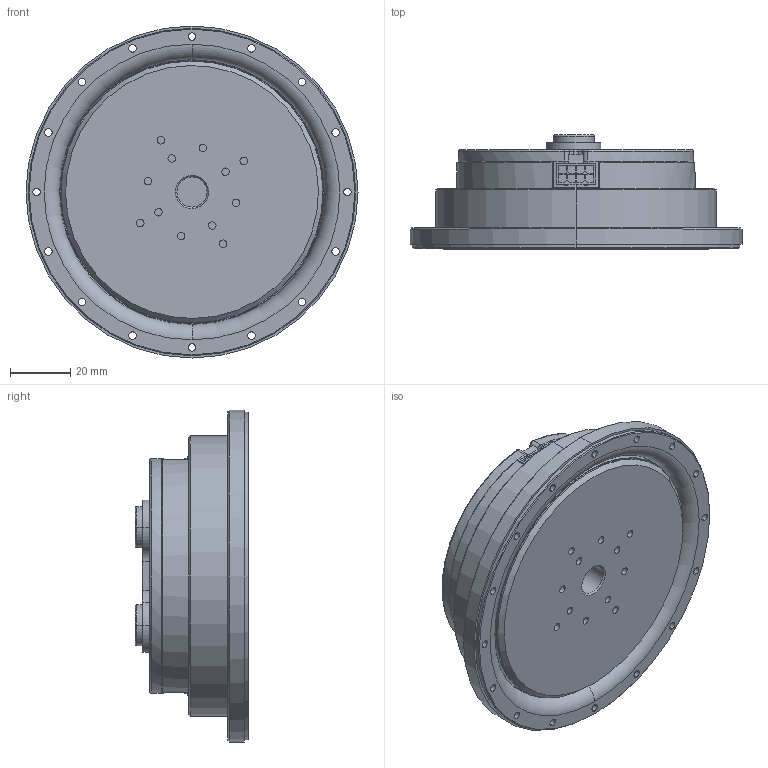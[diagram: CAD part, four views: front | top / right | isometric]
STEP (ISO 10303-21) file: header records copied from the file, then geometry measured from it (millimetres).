
FILE_DESCRIPTION (( 'STEP AP214' ), '1' );
FILE_NAME ('DD_NU80.STEP', '2019-11-28T09:54:23', ( '' ), ( '' ), 'SwSTEP 2.0', 'SolidWorks 2018', '' );
FILE_SCHEMA (( 'AUTOMOTIVE_DESIGN' ));
Length unit declared in the file: millimetre
Products named in the file (1): DD_NU80
Bounding box: 110 x 37.72 x 110 mm (x, y, z)
Volume: 108582.8 mm3; surface area: 57881 mm2
Topology: 2 solids, 6 shells, 667 faces, 1642 edges, 1044 vertices
Faces by surface type: plane 359, cylinder 200, cone 80, torus 28
Entity records: 26790 total; most frequent: CARTESIAN_POINT 3837, DIRECTION 3489, ORIENTED_EDGE 3280, EDGE_CURVE 1640, AXIS2_PLACEMENT_3D 1286, VERTEX_POINT 1044, LINE 917, VECTOR 917
